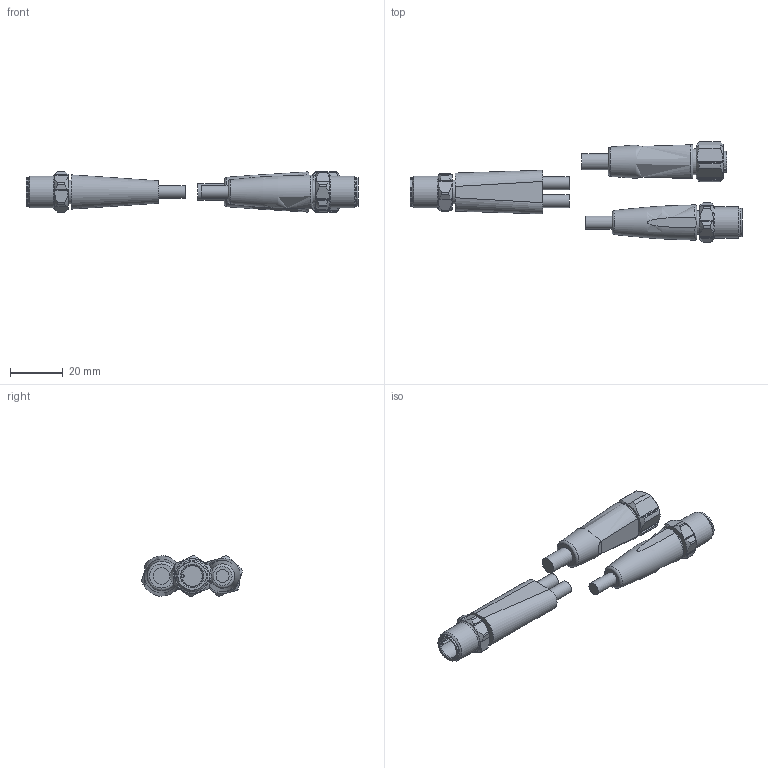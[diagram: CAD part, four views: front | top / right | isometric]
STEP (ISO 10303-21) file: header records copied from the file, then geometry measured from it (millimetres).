
FILE_DESCRIPTION(/* description */ ('STEP AP203'),/* implementation_level */ '2;1');
FILE_NAME(/* name */ 'P_MZ_SUV_0736',/* time_stamp */ '2023-04-13T10:28:20+02:00',/* author */ ('License CC BY-ND 4.0'),/* organization */ ('CADENAS'),/* preprocessor_version */ 'ST-DEVELOPER v19.3',/* originating_system */ 'PARTsolutions',/* authorisation */ ' ');
FILE_SCHEMA (('CONFIG_CONTROL_DESIGN'));
Length unit declared in the file: millimetre
Products named in the file (4): P_MZ_SUV_0736; P_MZ_SUV_0736_P3; P_MZ_SUV_0736_P2; P_MZ_SUV_0736_P1
Assembly tree (3 placements, depth 2):
  P_MZ_SUV_0736
    P_MZ_SUV_0736_P3
    P_MZ_SUV_0736_P2
    P_MZ_SUV_0736_P1
Bounding box: 125.55 x 38.11 x 15.49 mm (x, y, z)
Volume: 17950.4 mm3; surface area: 8545.4 mm2
Topology: 3 solids, 3 shells, 176 faces, 442 edges, 292 vertices
Faces by surface type: plane 94, cylinder 58, torus 11, cone 11, bspline 2
Full cylindrical faces by diameter (mm): 4.9 x3, 6.2 x1, 8.3 x2, 8.9 x2, 9.8 x1, 9.9 x2, 10.7 x2, 10.917 x1, 12 x2
Entity records: 6223 total; most frequent: CARTESIAN_POINT 1502, ORIENTED_EDGE 792, DIRECTION 698, EDGE_CURVE 396, AXIS2_PLACEMENT_3D 286, VERTEX_POINT 280, EDGE_LOOP 230, FACE_BOUND 230
